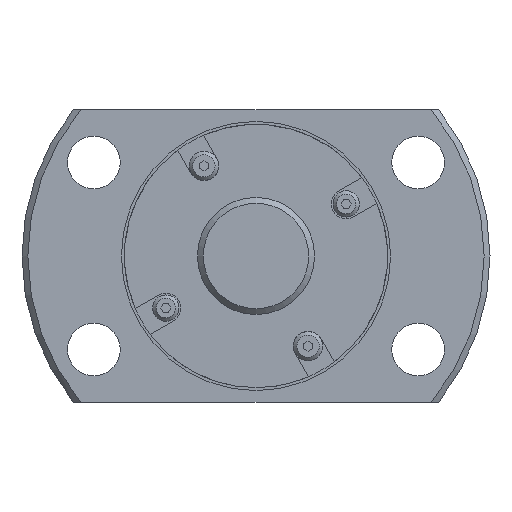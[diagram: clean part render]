
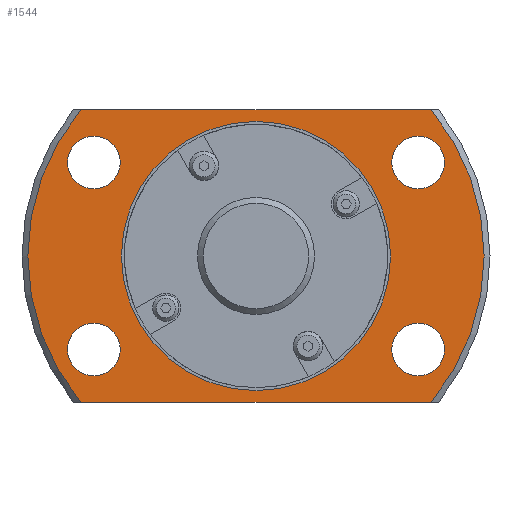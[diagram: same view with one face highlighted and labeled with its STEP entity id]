
A CAD part, left-side view. The second image highlights one B-rep face of the part: STEP entity #1544.
In plain terms, the highlighted planar face has unit normal (-1, 0, 0).
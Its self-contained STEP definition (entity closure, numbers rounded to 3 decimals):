
#97=CIRCLE('',#1685,19.5);
#118=CIRCLE('',#1714,11.25);
#119=CIRCLE('',#1716,2.25);
#120=CIRCLE('',#1717,2.25);
#121=CIRCLE('',#1718,2.25);
#122=CIRCLE('',#1719,2.25);
#123=CIRCLE('',#1720,19.5);
#283=ORIENTED_EDGE('',*,*,#651,.T.);
#284=ORIENTED_EDGE('',*,*,#652,.T.);
#285=ORIENTED_EDGE('',*,*,#653,.T.);
#286=ORIENTED_EDGE('',*,*,#654,.T.);
#287=ORIENTED_EDGE('',*,*,#608,.F.);
#288=ORIENTED_EDGE('',*,*,#655,.T.);
#289=ORIENTED_EDGE('',*,*,#656,.F.);
#290=ORIENTED_EDGE('',*,*,#657,.T.);
#291=ORIENTED_EDGE('',*,*,#650,.T.);
#608=EDGE_CURVE('',#804,#805,#97,.T.);
#650=EDGE_CURVE('',#841,#841,#118,.T.);
#651=EDGE_CURVE('',#842,#842,#119,.T.);
#652=EDGE_CURVE('',#843,#843,#120,.T.);
#653=EDGE_CURVE('',#844,#844,#121,.T.);
#654=EDGE_CURVE('',#845,#845,#122,.T.);
#655=EDGE_CURVE('',#804,#846,#953,.T.);
#656=EDGE_CURVE('',#847,#846,#123,.T.);
#657=EDGE_CURVE('',#847,#805,#954,.T.);
#804=VERTEX_POINT('',#2421);
#805=VERTEX_POINT('',#2423);
#841=VERTEX_POINT('',#2518);
#842=VERTEX_POINT('',#2521);
#843=VERTEX_POINT('',#2523);
#844=VERTEX_POINT('',#2525);
#845=VERTEX_POINT('',#2527);
#846=VERTEX_POINT('',#2529);
#847=VERTEX_POINT('',#2531);
#953=LINE('',#2528,#1075);
#954=LINE('',#2532,#1076);
#1075=VECTOR('',#2030,1000.);
#1076=VECTOR('',#2033,1000.);
#1198=EDGE_LOOP('',(#283));
#1199=EDGE_LOOP('',(#284));
#1200=EDGE_LOOP('',(#285));
#1201=EDGE_LOOP('',(#286));
#1202=EDGE_LOOP('',(#287,#288,#289,#290));
#1203=EDGE_LOOP('',(#291));
#1350=FACE_BOUND('',#1198,.T.);
#1351=FACE_BOUND('',#1199,.T.);
#1352=FACE_BOUND('',#1200,.T.);
#1353=FACE_BOUND('',#1201,.T.);
#1354=FACE_BOUND('',#1202,.T.);
#1355=FACE_BOUND('',#1203,.T.);
#1466=PLANE('',#1715);
#1544=ADVANCED_FACE('',(#1350,#1351,#1352,#1353,#1354,#1355),#1466,.F.);
#1685=AXIS2_PLACEMENT_3D('',#2422,#1942,#1943);
#1714=AXIS2_PLACEMENT_3D('',#2517,#2018,#2019);
#1715=AXIS2_PLACEMENT_3D('',#2519,#2020,#2021);
#1716=AXIS2_PLACEMENT_3D('',#2520,#2022,#2023);
#1717=AXIS2_PLACEMENT_3D('',#2522,#2024,#2025);
#1718=AXIS2_PLACEMENT_3D('',#2524,#2026,#2027);
#1719=AXIS2_PLACEMENT_3D('',#2526,#2028,#2029);
#1720=AXIS2_PLACEMENT_3D('',#2530,#2031,#2032);
#1942=DIRECTION('',(1.,0.,0.));
#1943=DIRECTION('',(0.,0.,-1.));
#2018=DIRECTION('',(1.,0.,0.));
#2019=DIRECTION('',(0.,0.,-1.));
#2020=DIRECTION('',(1.,0.,0.));
#2021=DIRECTION('',(0.,0.,-1.));
#2022=DIRECTION('',(1.,0.,0.));
#2023=DIRECTION('',(0.,0.,-1.));
#2024=DIRECTION('',(1.,0.,0.));
#2025=DIRECTION('',(0.,0.,-1.));
#2026=DIRECTION('',(1.,0.,0.));
#2027=DIRECTION('',(0.,0.,-1.));
#2028=DIRECTION('',(1.,0.,0.));
#2029=DIRECTION('',(0.,0.,-1.));
#2030=DIRECTION('',(0.,-1.,0.));
#2031=DIRECTION('',(1.,0.,0.));
#2032=DIRECTION('',(0.,0.,-1.));
#2033=DIRECTION('',(0.,1.,0.));
#2421=CARTESIAN_POINT('',(13.,14.967,-12.5));
#2422=CARTESIAN_POINT('',(13.,0.,0.));
#2423=CARTESIAN_POINT('',(13.,14.967,12.5));
#2517=CARTESIAN_POINT('',(13.,0.,0.));
#2518=CARTESIAN_POINT('',(13.,0.,-11.25));
#2519=CARTESIAN_POINT('',(13.,11.25,0.));
#2520=CARTESIAN_POINT('',(13.,-13.856,-8.));
#2521=CARTESIAN_POINT('',(13.,-13.856,-10.25));
#2522=CARTESIAN_POINT('',(13.,-13.856,8.));
#2523=CARTESIAN_POINT('',(13.,-13.856,5.75));
#2524=CARTESIAN_POINT('',(13.,13.856,-8.));
#2525=CARTESIAN_POINT('',(13.,13.856,-10.25));
#2526=CARTESIAN_POINT('',(13.,13.856,8.));
#2527=CARTESIAN_POINT('',(13.,13.856,5.75));
#2528=CARTESIAN_POINT('',(13.,11.25,-12.5));
#2529=CARTESIAN_POINT('',(13.,-14.967,-12.5));
#2530=CARTESIAN_POINT('',(13.,0.,0.));
#2531=CARTESIAN_POINT('',(13.,-14.967,12.5));
#2532=CARTESIAN_POINT('',(13.,11.25,12.5));
